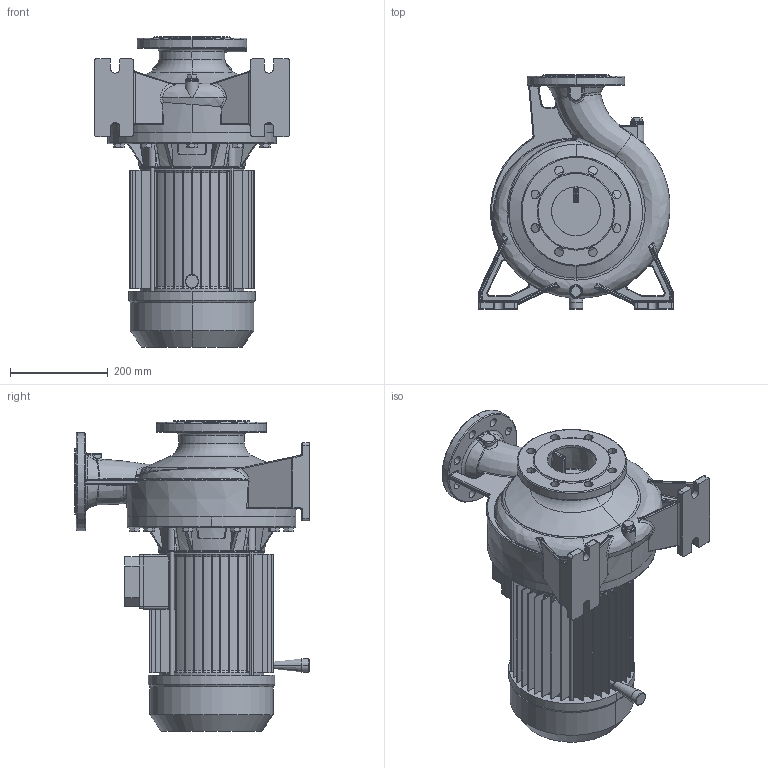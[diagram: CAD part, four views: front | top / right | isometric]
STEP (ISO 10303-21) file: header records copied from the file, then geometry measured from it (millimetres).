
FILE_DESCRIPTION((''),'2;1');
FILE_NAME('3M4_80-250_7_5_ASM','2011-01-28T',('Utente'),('"Ebara Pumps Europe +39.444.706811"'),'PRO/ENGINEER BY PARAMETRIC TECHNOLOGY CORPORATION, 2009360','PRO/ENGINEER BY PARAMETRIC TECHNOLOGY CORPORATION, 2009360','');
FILE_SCHEMA(('AUTOMOTIVE_DESIGN { 1 0 10303 214 1 1 1 1 }'));
Length unit declared in the file: millimetre
Products named in the file (5): CORPO_POMPA_80-250; SUPPORTO_3M_266_132; MEC_132; 72183; 3M4_80-250_7_5_ASM
Assembly tree (4 placements, depth 2):
  3M4_80-250_7_5_ASM
    CORPO_POMPA_80-250
    SUPPORTO_3M_266_132
    MEC_132
    72183
Bounding box: 400 x 480 x 636 mm (x, y, z)
Volume: 23077245.1 mm3; surface area: 1953238.8 mm2
Topology: 4 solids, 4 shells, 1313 faces, 3177 edges, 1905 vertices
Faces by surface type: plane 490, cylinder 323, bspline 249, torus 118, cone 103, sphere 30
Entity records: 51017 total; most frequent: CARTESIAN_POINT 20957, ORIENTED_EDGE 6354, DIRECTION 5647, EDGE_CURVE 3177, AXIS2_PLACEMENT_3D 2202, VERTEX_POINT 1905, EDGE_LOOP 1384, FACE_OUTER_BOUND 1313
